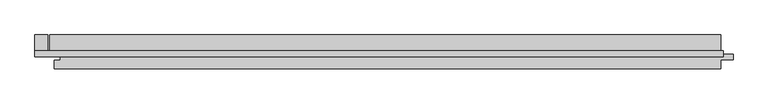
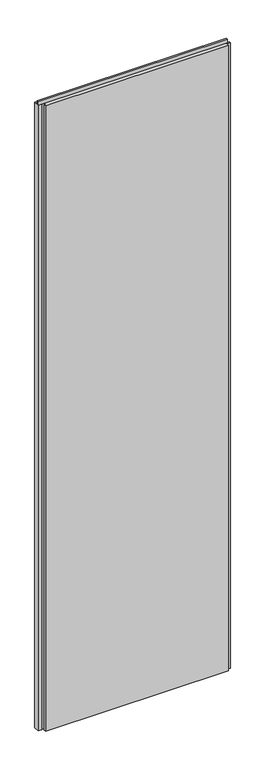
"""IFC4 building model written with IfcOpenShell, lengths in millimetres: plate geometry, Trimo_Qbiss Screen_Normal Panel-VERTICAL : HR - FB."""

from ifc_helpers import new_model, si_unit, frame, origin, place, context, project, spatial, polyline, outline, extrude, source, transform, mapped, element, save


def plate_431b4100(model_context):
    return source(origin(), model_context, "Body", "SweptSolid", [
        extrude(outline(polyline([(-523.0, 97.0), (-523.0, 126.0), (-504.0, 126.0), (-504.0, 97.0), (-523.0, 97.0)])), frame((0.0, 0.0, 12.5), z_axis=(0.0, 0.0, 1.0), x_axis=(1.0, 0.0, 0.0)), (0.0, 0.0, 1.0), 3575.0),
        extrude(outline(polyline([(-523.0, 93.9), (-523.0, 102.6), (500.0, 102.6), (500.0, 93.9), (-523.0, 93.9)])), frame((0.0, 0.0, 3590.5), z_axis=(0.0, 0.0, 1.0), x_axis=(1.0, 0.0, 0.0)), (0.0, 0.0, 1.0), 19.0),
        extrude(outline(polyline([(496.0, 97.0), (514.5, 97.0), (514.5, 89.0), (496.0, 89.0), (496.0, 76.0), (-494.0, 76.0), (-494.0, 88.0), (-485.5, 88.0), (-485.5, 98.0), (-501.0, 98.0), (-501.0, 126.0), (496.0, 126.0), (496.0, 97.0)])), frame((0.0, 0.0, 12.5), z_axis=(0.0, 0.0, 1.0), x_axis=(1.0, 0.0, 0.0)), (0.0, 0.0, 1.0), 3575.0),
    ])


if __name__ == "__main__":
    model = new_model("IFC4")
    model_context = context("Model", 3, world=origin())
    ifc_project = project(units=[si_unit("LENGTHUNIT", "METRE", prefix="MILLI")], contexts=[model_context])
    site = spatial("IfcSite", under=ifc_project)
    building = spatial("IfcBuilding", under=site)
    placement = place(None, origin())
    plate_shape = plate_431b4100(model_context)
    element("IfcPlate", 1, ObjectType="Trimo_Qbiss Screen_Normal Panel-VERTICAL : HR - FB", at=placement, inside=building, context=model_context, shape_type="MappedRepresentation", body=[
        mapped(plate_shape, transform((0.0, 0.0, 0.0), x_axis=(1.0, 0.0, 0.0), y_axis=(0.0, 1.0, 0.0), z_axis=(0.0, 0.0, 1.0))),
    ])
    save(model, "model.ifc")
